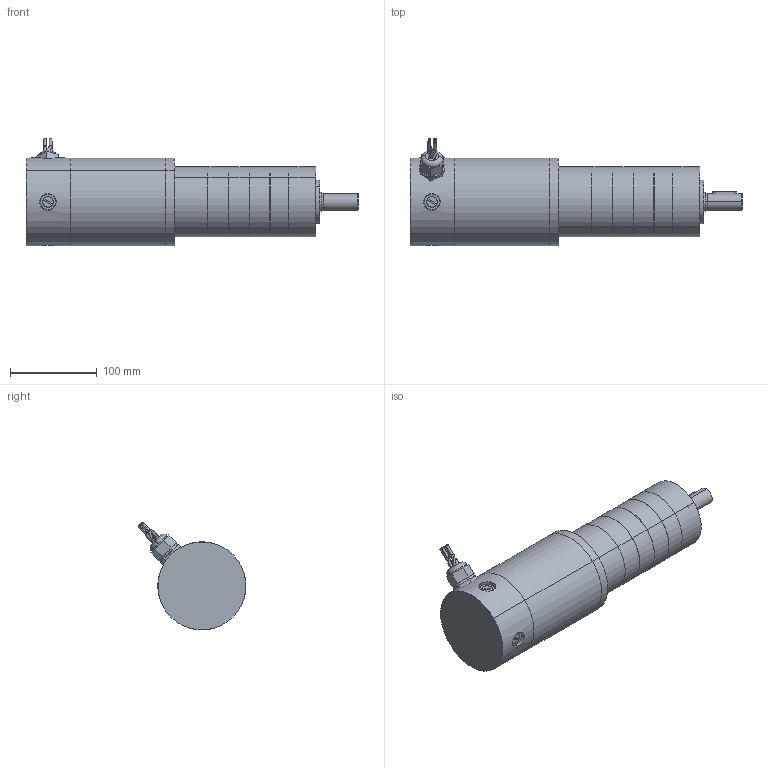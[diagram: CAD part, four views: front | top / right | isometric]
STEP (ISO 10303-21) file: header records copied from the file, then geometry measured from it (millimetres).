
FILE_DESCRIPTION (( 'STEP AP203' ), '1' );
FILE_NAME ('d40675agp4.step', '2018-12-07T19:44:49', ( '' ), ( '' ), 'SwSTEP 2.0', 'SolidWorks 2017', '' );
FILE_SCHEMA (( 'CONFIG_CONTROL_DESIGN' ));
Length unit declared in the file: inch
Products named in the file (1): d40675agp4
Bounding box: 383.15 x 124.47 x 124.47 mm (x, y, z)
Volume: 2270624.4 mm3; surface area: 232082.2 mm2
Topology: 21 solids, 21 shells, 527 faces, 1140 edges, 687 vertices
Faces by surface type: plane 216, cylinder 189, cone 73, torus 33, bspline 8, sphere 8
Entity records: 15282 total; most frequent: CARTESIAN_POINT 3505, DIRECTION 2685, ORIENTED_EDGE 2232, EDGE_CURVE 1116, AXIS2_PLACEMENT_3D 1095, VERTEX_POINT 687, EDGE_LOOP 603, CIRCLE 575
